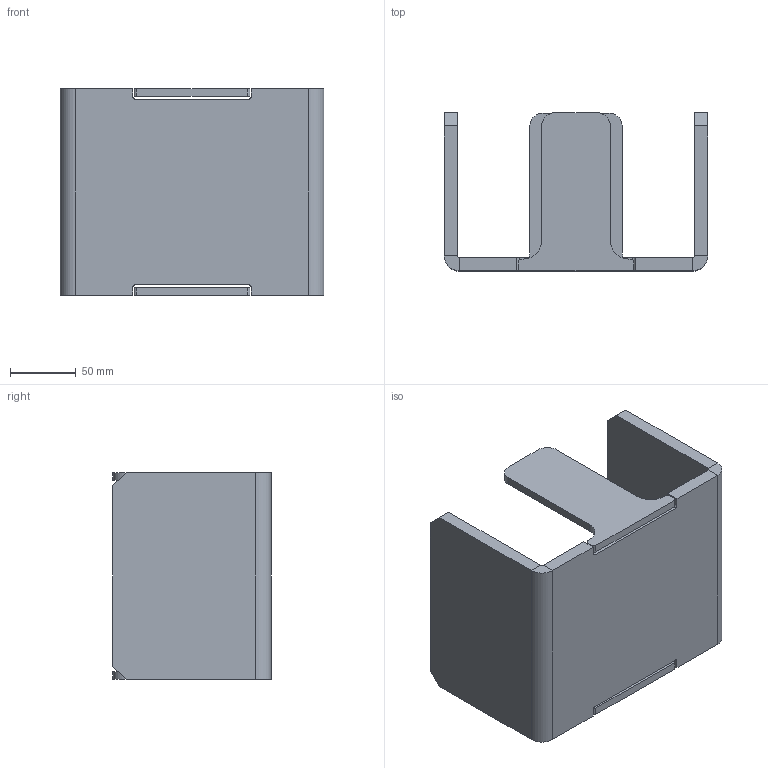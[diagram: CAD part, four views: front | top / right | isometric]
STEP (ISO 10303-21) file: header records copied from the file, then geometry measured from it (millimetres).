
FILE_DESCRIPTION (( 'STEP AP203' ), '1' );
FILE_NAME ('4142_SUPPORTO_TROLLEY.STEP', '2019-02-20T18:26:10', ( '' ), ( '' ), 'SwSTEP 2.0', 'SolidWorks 2019', '' );
FILE_SCHEMA (( 'CONFIG_CONTROL_DESIGN' ));
Length unit declared in the file: millimetre
Products named in the file (4): 4142_LINGUA_GRANDE_SUPPORTO; 4142_SUPPORTO_TROLLEY; 4142_SUPPORTO; 4142_LINGUA_PICCOLA_SUPPORTO
Assembly tree (3 placements, depth 2):
  4142_SUPPORTO_TROLLEY
    4142_LINGUA_PICCOLA_SUPPORTO
    4142_LINGUA_GRANDE_SUPPORTO
    4142_SUPPORTO
Bounding box: 200 x 120 x 157 mm (x, y, z)
Volume: 724817 mm3; surface area: 173255.2 mm2
Topology: 3 solids, 3 shells, 72 faces, 182 edges, 116 vertices
Faces by surface type: plane 50, cylinder 22
Entity records: 2556 total; most frequent: DIRECTION 382, CARTESIAN_POINT 376, ORIENTED_EDGE 364, EDGE_CURVE 182, LINE 138, VECTOR 138, AXIS2_PLACEMENT_3D 122, VERTEX_POINT 116
